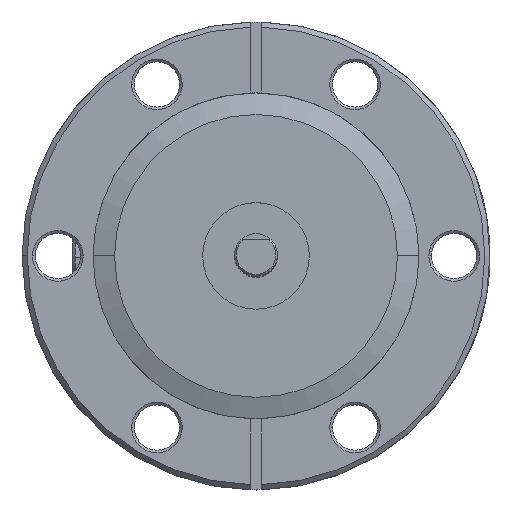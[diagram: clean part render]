
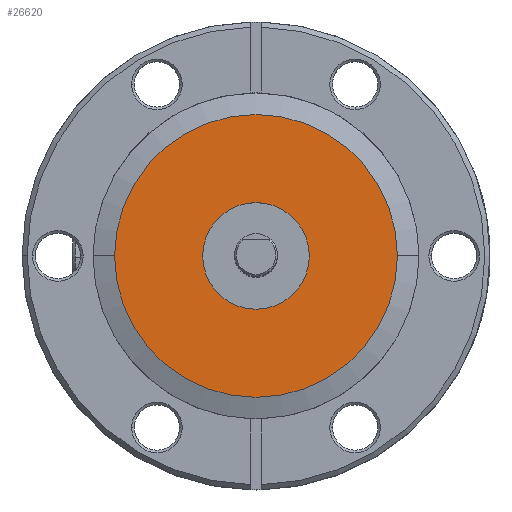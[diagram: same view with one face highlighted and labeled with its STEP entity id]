
A CAD part, top view. The second image highlights one B-rep face of the part: STEP entity #26620.
In plain terms, the highlighted planar face has unit normal (0, 0, 1).
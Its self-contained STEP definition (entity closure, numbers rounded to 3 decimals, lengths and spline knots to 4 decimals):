
#444 = VERTEX_POINT ( 'NONE', #22004 ) ;
#676 = VERTEX_POINT ( 'NONE', #21081 ) ;
#739 = VERTEX_POINT ( 'NONE', #20871 ) ;
#872 = VERTEX_POINT ( 'NONE', #20303 ) ;
#2334 = CIRCLE ( 'NONE', #54135, 0.7899 ) ;
#5536 = EDGE_LOOP ( 'NONE', ( #12166, #12454 ) ) ;
#6217 = EDGE_LOOP ( 'NONE', ( #12944, #12214 ) ) ;
#11293 = CARTESIAN_POINT ( 'NONE',  ( 0., 0., -0.1295 ) ) ;
#11294 = DIRECTION ( 'NONE',  ( 0., 0., -1. ) ) ;
#11295 = DIRECTION ( 'NONE',  ( 0., -1., 0. ) ) ;
#12166 = ORIENTED_EDGE ( 'NONE', *, *, #57727, .T. ) ;
#12214 = ORIENTED_EDGE ( 'NONE', *, *, #45057, .T. ) ;
#12454 = ORIENTED_EDGE ( 'NONE', *, *, #56546, .T. ) ;
#12944 = ORIENTED_EDGE ( 'NONE', *, *, #24956, .T. ) ;
#18699 = CARTESIAN_POINT ( 'NONE',  ( 0., 2.0955, -0.1295 ) ) ;
#18703 = PLANE ( 'NONE',  #53633 ) ;
#18708 = DIRECTION ( 'NONE',  ( 0., 0., 1. ) ) ;
#18709 = DIRECTION ( 'NONE',  ( 0., -1., 0. ) ) ;
#20303 = CARTESIAN_POINT ( 'NONE',  ( 0., -2.0955, -0.1295 ) ) ;
#20522 = AXIS2_PLACEMENT_3D ( 'NONE', #11293, #11294, #11295 ) ;
#20871 = CARTESIAN_POINT ( 'NONE',  ( 0., -0.7899, -0.1295 ) ) ;
#21081 = CARTESIAN_POINT ( 'NONE',  ( 0., 0.7899, -0.1295 ) ) ;
#22004 = CARTESIAN_POINT ( 'NONE',  ( 0., 2.0955, -0.1295 ) ) ;
#24956 = EDGE_CURVE ( 'NONE', #739, #676, #51733, .T. ) ;
#26620 = ADVANCED_FACE ( 'NONE', ( #51104, #51469 ), #18703, .T. ) ;
#33004 = CARTESIAN_POINT ( 'NONE',  ( 0., 0., -0.1295 ) ) ;
#33007 = DIRECTION ( 'NONE',  ( 0., 0., 1. ) ) ;
#33010 = DIRECTION ( 'NONE',  ( 0., 1., 0. ) ) ;
#45057 = EDGE_CURVE ( 'NONE', #676, #739, #2334, .T. ) ;
#46607 = CARTESIAN_POINT ( 'NONE',  ( 0., 0., -0.1295 ) ) ;
#46608 = DIRECTION ( 'NONE',  ( 0., 0., 1. ) ) ;
#46609 = DIRECTION ( 'NONE',  ( 0., 1., 0. ) ) ;
#51104 = FACE_OUTER_BOUND ( 'NONE', #5536, .T. ) ;
#51469 = FACE_BOUND ( 'NONE', #6217, .T. ) ;
#51733 = CIRCLE ( 'NONE', #20522, 0.7899 ) ;
#53633 = AXIS2_PLACEMENT_3D ( 'NONE', #18699, #18708, #18709 ) ;
#54135 = AXIS2_PLACEMENT_3D ( 'NONE', #60206, #60207, #60208 ) ;
#54332 = AXIS2_PLACEMENT_3D ( 'NONE', #33004, #33007, #33010 ) ;
#54765 = AXIS2_PLACEMENT_3D ( 'NONE', #46607, #46608, #46609 ) ;
#56546 = EDGE_CURVE ( 'NONE', #872, #444, #62856, .T. ) ;
#57727 = EDGE_CURVE ( 'NONE', #444, #872, #63115, .T. ) ;
#60206 = CARTESIAN_POINT ( 'NONE',  ( 0., 0., -0.1295 ) ) ;
#60207 = DIRECTION ( 'NONE',  ( 0., 0., -1. ) ) ;
#60208 = DIRECTION ( 'NONE',  ( 0., -1., 0. ) ) ;
#62856 = CIRCLE ( 'NONE', #54332, 2.0955 ) ;
#63115 = CIRCLE ( 'NONE', #54765, 2.0955 ) ;
